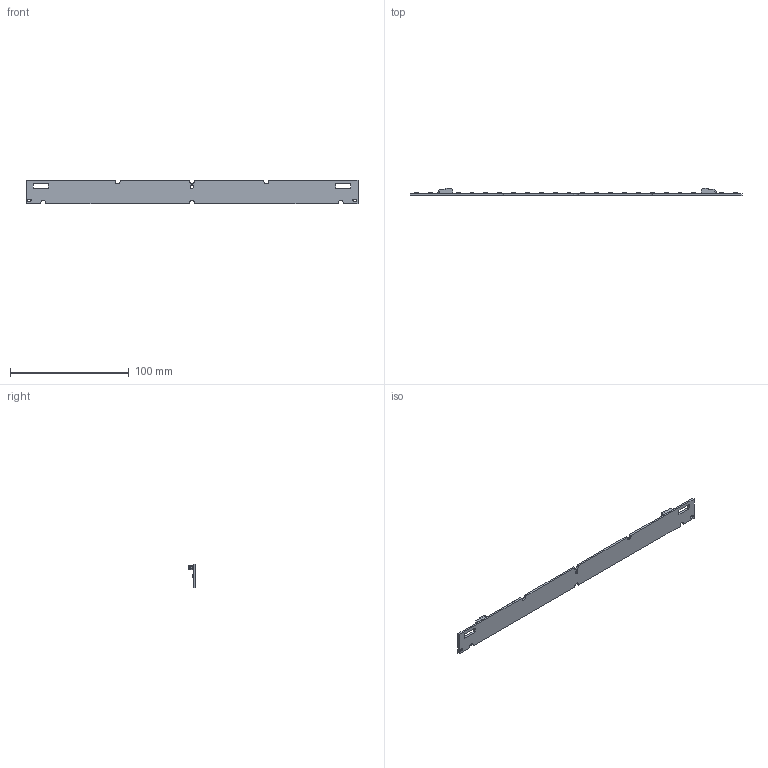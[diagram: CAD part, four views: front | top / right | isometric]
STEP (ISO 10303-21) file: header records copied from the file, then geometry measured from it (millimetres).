
FILE_DESCRIPTION((''),'2;1');
FILE_NAME('ASM-WU-M-625_KOMPONENTI_ASM','2019-07-09T11:26:52',('msavic'),(''),'CREO PARAMETRIC BY PTC INC, 2016510','CREO PARAMETRIC BY PTC INC, 2016510','');
FILE_SCHEMA(('AUTOMOTIVE_DESIGN { 1 0 10303 214 1 1 1 1 }'));
Products named in the file (15): BAZA_WU-M-625; STW8A12D127; VSO-LOGO-5MM; VSO-LOGO-5MM001; BUILT-IN_LED_MODULE-5MM004; BUILT-IN_LED_MODULE-5MM003; BUILT-IN_LED_MODULE-5MM002; BUILT-IN_LED_MODULE-5MM001; PAD_3; PAD_1; PAD_2; CE-ZEICHEN-6MM; CE-ZEICHEN-6MM001; 2060-451_1_2_3; ASM-WU-M-625_KOMPONENTI_ASM
Assembly tree (39 placements, depth 2):
  ASM-WU-M-625_KOMPONENTI_ASM
    BAZA_WU-M-625
    STW8A12D127  x24
    VSO-LOGO-5MM
    VSO-LOGO-5MM001
    BUILT-IN_LED_MODULE-5MM004
    BUILT-IN_LED_MODULE-5MM003
    BUILT-IN_LED_MODULE-5MM002
    BUILT-IN_LED_MODULE-5MM001  x2
    PAD_3
    PAD_1
    PAD_2
    CE-ZEICHEN-6MM
    CE-ZEICHEN-6MM001
    2060-451_1_2_3  x2
Bounding box: 279 x 5.95 x 20 mm (x, y, z)
Volume: 444.8 mm3; surface area: 13312.6 mm2
Topology: 38 solids, 39 shells, 3258 faces, 9537 edges, 6548 vertices
Faces by surface type: plane 2028, extrusion 1008, cylinder 220, sphere 2
Entity records: 75804 total; most frequent: CARTESIAN_POINT 20123, ORIENTED_EDGE 11548, DIRECTION 7356, EDGE_CURVE 5774, VECTOR 4535, VERTEX_POINT 3857, LINE 3527, B_SPLINE_CURVE_WITH_KNOTS 3052
